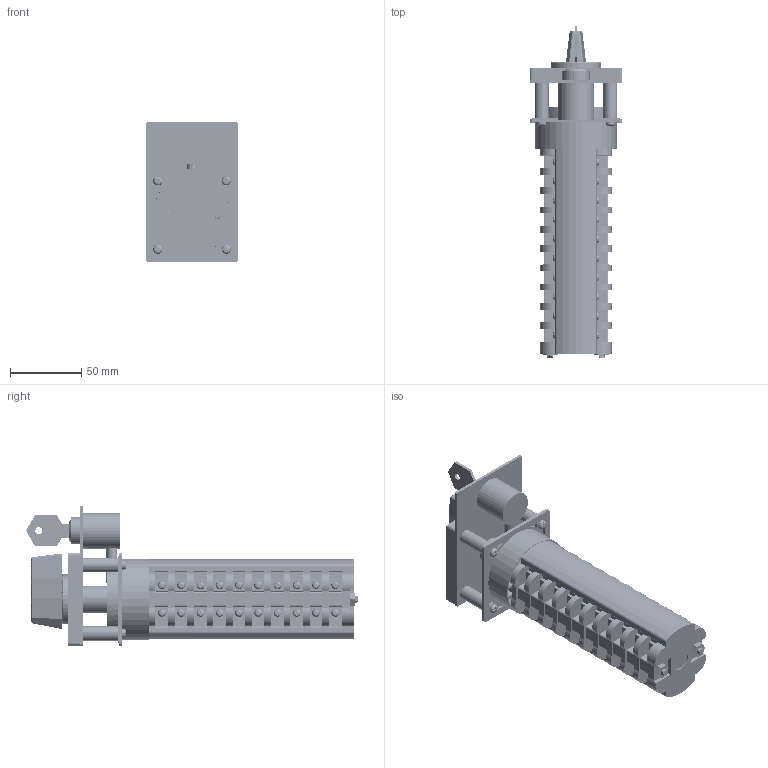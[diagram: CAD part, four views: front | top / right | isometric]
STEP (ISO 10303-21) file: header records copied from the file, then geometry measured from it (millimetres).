
FILE_DESCRIPTION(/* description */ (''),/* implementation_level */ '2;1');
FILE_NAME(/* name */ '4G16,25_S5_10_korpusow.stp',/* time_stamp */ '2021-07-21T12:35:11+02:00',/* author */ (''),/* organization */ (''),/* preprocessor_version */ 'ST-DEVELOPER v18.1',/* originating_system */ 'SIEMENS PLM Software NX 1965',/* authorisation */ '');
FILE_SCHEMA (('AUTOMOTIVE_DESIGN { 1 0 10303 214 3 1 1 1 }'));
Products named in the file (1): 4G16,25_S5_10_korpusow_stp
Bounding box: 65 x 232.6 x 97.5 mm (x, y, z)
Volume: 430338.6 mm3; surface area: 100734.3 mm2
Topology: 2 solids, 13 shells, 2209 faces, 6165 edges, 4070 vertices
Faces by surface type: plane 1329, cylinder 590, bspline 203, cone 84, sphere 2, torus 1
Full cylindrical faces by diameter (mm): 3.3 x2, 4 x4, 4.3 x4, 5 x3, 5.4 x41, 6.4 x4, 6.5 x2, 7.2 x4, 7.5 x1, 10 x5, 14 x1, 15.8 x1, 19 x2, 21.2 x1, 25 x1, 35 x1, 57 x1
Entity records: 201178 total; most frequent: CARTESIAN_POINT 147069, ORIENTED_EDGE 11842, DIRECTION 10164, EDGE_CURVE 5921, VERTEX_POINT 3958, AXIS2_PLACEMENT_3D 3653, LINE 2858, VECTOR 2858
